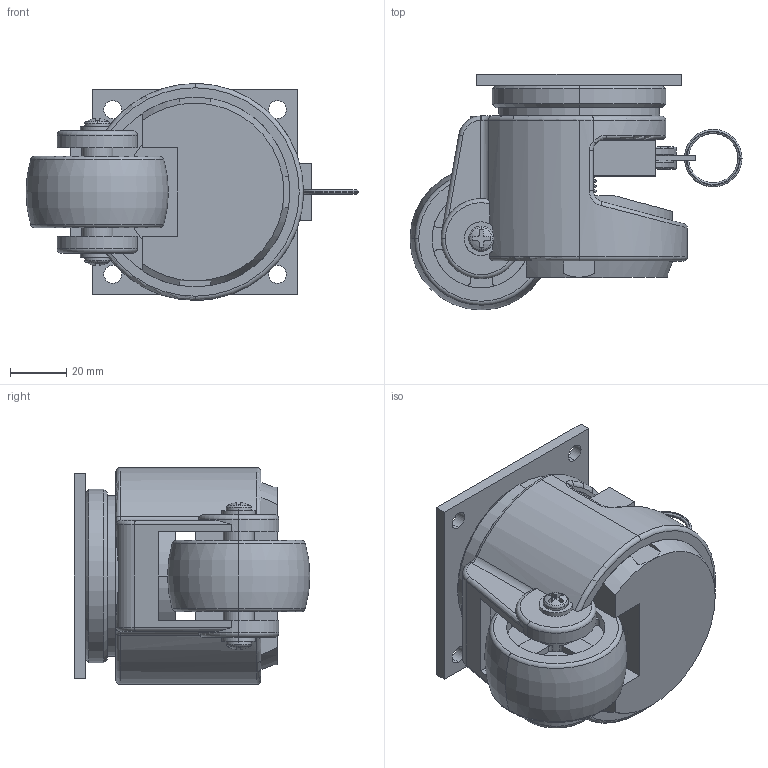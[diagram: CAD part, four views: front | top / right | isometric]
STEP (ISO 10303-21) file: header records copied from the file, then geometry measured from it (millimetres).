
FILE_DESCRIPTION (( 'STEP AP203' ), '1' );
FILE_NAME ('24125T41.step', '2013-02-13T18:15:06', ( '' ), ( '' ), 'SwSTEP 2.0', 'SolidWorks 2010', '' );
FILE_SCHEMA (( 'CONFIG_CONTROL_DESIGN' ));
Length unit declared in the file: inch
Products named in the file (1): 24125T41
Bounding box: 118.46 x 84.14 x 77.35 mm (x, y, z)
Volume: 255588.9 mm3; surface area: 82716.9 mm2
Topology: 7 solids, 8 shells, 413 faces, 1100 edges, 708 vertices
Faces by surface type: cylinder 166, plane 155, torus 45, cone 24, bspline 19, sphere 4
Entity records: 21293 total; most frequent: CARTESIAN_POINT 11119, ORIENTED_EDGE 2200, DIRECTION 2110, EDGE_CURVE 1100, AXIS2_PLACEMENT_3D 831, VERTEX_POINT 708, LINE 448, VECTOR 448
